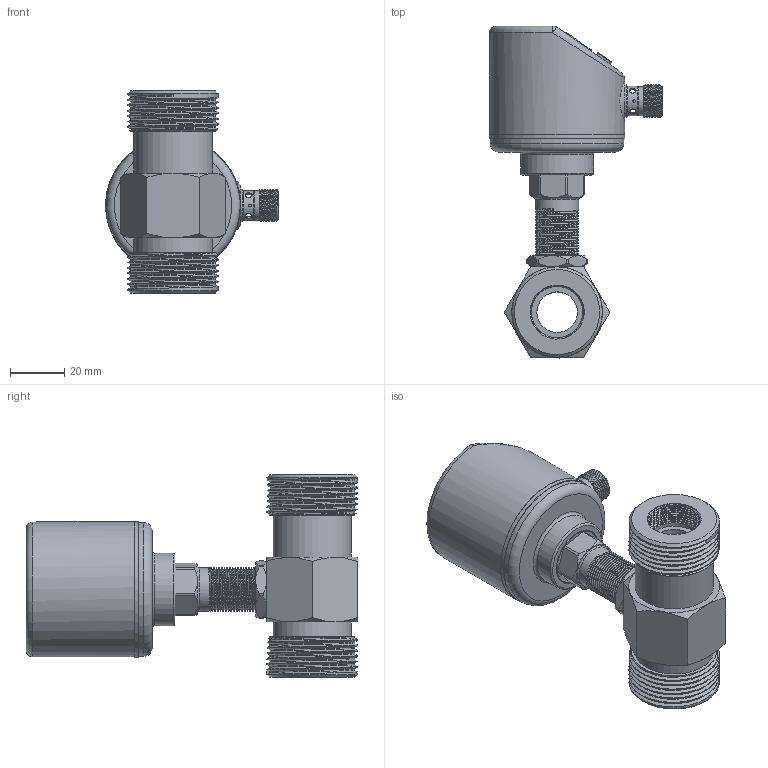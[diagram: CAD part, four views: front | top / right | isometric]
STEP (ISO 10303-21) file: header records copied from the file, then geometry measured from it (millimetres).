
FILE_DESCRIPTION (( 'STEP AP214' ), '1' );
FILE_NAME ('DN15俋杅珆.STEP', '2025-03-05T01:26:06', ( '' ), ( '' ), 'SwSTEP 2.0', 'SolidWorks 2020', '' );
FILE_SCHEMA (( 'AUTOMOTIVE_DESIGN' ));
Length unit declared in the file: millimetre
Products named in the file (10): DN15俋杅珆; 滅阨諉芛褲极1; 揤薯珆尨欶; DN15俋; 偌瑩簽; 蹟譫1; 揤薯奻裔; 抻芛俋蹟恇G1-4; 恦謫抻芛5; PVC躇猾菜
Assembly tree (11 placements, depth 2):
  DN15俋杅珆
    揤薯奻裔
    揤薯珆尨欶
    滅阨諉芛褲极1
    偌瑩簽  x3
    PVC躇猾菜
    抻芛俋蹟恇G1-4
    恦謫抻芛5
    蹟譫1
    DN15俋
Bounding box: 64 x 122.8 x 75 mm (x, y, z)
Volume: 72773.8 mm3; surface area: 49815.3 mm2
Topology: 11 solids, 11 shells, 465 faces, 1125 edges, 740 vertices
Faces by surface type: cylinder 183, plane 171, cone 69, bspline 26, torus 12, sphere 4
Full cylindrical faces by diameter (mm): 1 x4, 1.2 x3, 1.8 x1, 2 x5, 2.5 x7, 2.8 x1, 4.3 x3, 4.5 x6, 7 x15, 7.2 x1, 8.5 x1, 9.75 x1, 10.5 x1, 10.7 x1, 10.8 x1, 10.9 x1, 11 x2, 12 x1, 14 x1, 14.3 x1, 14.4 x1, 14.8 x1, 15 x1, 16 x29, 17.34 x2, 17.4 x1, 19 x16, 21.24 x1, 21.3 x1, 24 x1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
Entity records: 27604 total; most frequent: CARTESIAN_POINT 19036, DIRECTION 1652, ORIENTED_EDGE 1468, EDGE_CURVE 734, AXIS2_PLACEMENT_3D 678, EDGE_LOOP 588, VERTEX_POINT 536, FACE_OUTER_BOUND 454
